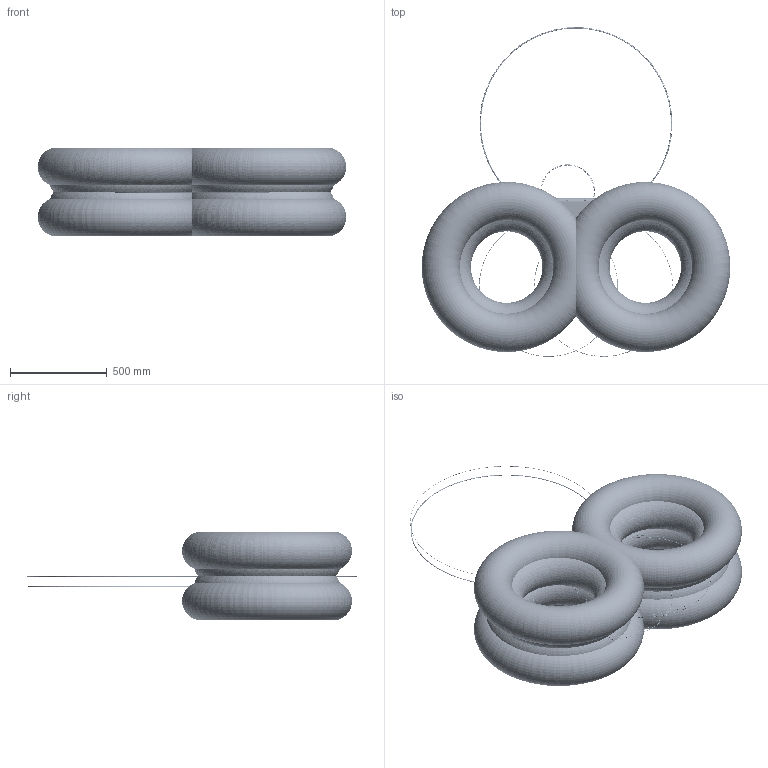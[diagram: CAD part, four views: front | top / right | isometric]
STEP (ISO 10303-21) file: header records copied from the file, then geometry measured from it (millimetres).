
FILE_DESCRIPTION((''),'2;1');
FILE_NAME('1','2014-06-04T',('tony'),(''),'PRO/ENGINEER BY PARAMETRIC TECHNOLOGY CORPORATION, 2008090','PRO/ENGINEER BY PARAMETRIC TECHNOLOGY CORPORATION, 2008090','');
FILE_SCHEMA(('CONFIG_CONTROL_DESIGN'));
Products named in the file (1): 1
Bounding box: 1598.57 x 1707.4 x 459.94 mm (x, y, z)
Surface area: 152508243.8 mm2 (no closed solid volume)
Topology: 0 solids, 0 shells, 8037 faces, 44545 edges, 44069 vertices
Faces by surface type: bspline 7409, torus 564, sphere 64
Entity records: 643494 total; most frequent: CARTESIAN_POINT 257298, DIRECTION 59444, TRIMMED_CURVE 52196, VECTOR 46204, LINE 46204, DEFINITIONAL_REPRESENTATION 43739, PCURVE 43739, COMPOSITE_CURVE_SEGMENT 43739
